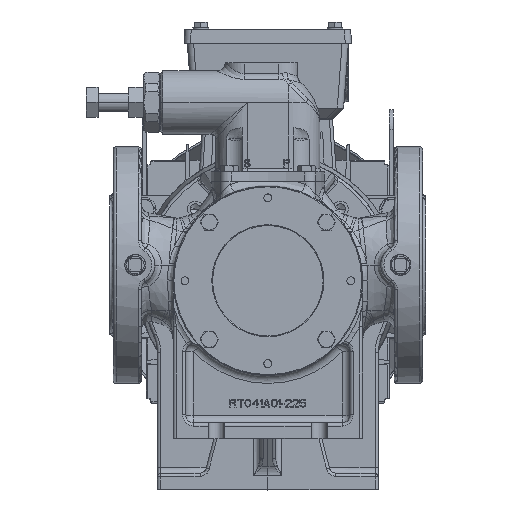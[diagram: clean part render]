
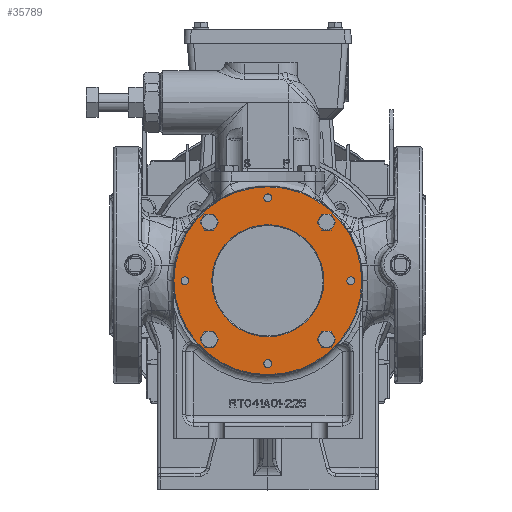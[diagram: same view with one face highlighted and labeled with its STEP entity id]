
A CAD part, top view. The second image highlights one B-rep face of the part: STEP entity #35789.
In plain terms, the highlighted planar face has unit normal (0, 0, 1) as drawn and (0, 0, -1) by its records, which use the part's own axes.
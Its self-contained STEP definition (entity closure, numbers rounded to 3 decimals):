
#34497=CARTESIAN_POINT('',(-52.5,0.,-30.5));
#34498=DIRECTION('',(0.,0.,1.));
#34499=DIRECTION('',(-1.,0.,0.));
#34500=AXIS2_PLACEMENT_3D('',#34497,#34498,#34499);
#34502=CARTESIAN_POINT('',(-52.5,0.,-30.5));
#34503=DIRECTION('',(0.,0.,1.));
#34504=DIRECTION('',(1.,0.,0.));
#34505=AXIS2_PLACEMENT_3D('',#34502,#34503,#34504);
#34507=CARTESIAN_POINT('',(0.,52.5,-30.5));
#34508=DIRECTION('',(0.,0.,1.));
#34509=DIRECTION('',(0.,1.,0.));
#34510=AXIS2_PLACEMENT_3D('',#34507,#34508,#34509);
#34512=CARTESIAN_POINT('',(0.,52.5,-30.5));
#34513=DIRECTION('',(0.,0.,1.));
#34514=DIRECTION('',(0.,-1.,0.));
#34515=AXIS2_PLACEMENT_3D('',#34512,#34513,#34514);
#34517=CARTESIAN_POINT('',(52.5,0.,-30.5));
#34518=DIRECTION('',(0.,0.,1.));
#34519=DIRECTION('',(1.,0.,0.));
#34520=AXIS2_PLACEMENT_3D('',#34517,#34518,#34519);
#34522=CARTESIAN_POINT('',(52.5,0.,-30.5));
#34523=DIRECTION('',(0.,0.,1.));
#34524=DIRECTION('',(-1.,0.,0.));
#34525=AXIS2_PLACEMENT_3D('',#34522,#34523,#34524);
#34527=CARTESIAN_POINT('',(0.,-52.5,-30.5));
#34528=DIRECTION('',(0.,0.,1.));
#34529=DIRECTION('',(0.,-1.,0.));
#34530=AXIS2_PLACEMENT_3D('',#34527,#34528,#34529);
#34532=CARTESIAN_POINT('',(0.,-52.5,-30.5));
#34533=DIRECTION('',(0.,0.,1.));
#34534=DIRECTION('',(0.,1.,0.));
#34535=AXIS2_PLACEMENT_3D('',#34532,#34533,#34534);
#34537=CARTESIAN_POINT('',(-37.123,37.123,-30.5));
#34538=DIRECTION('',(0.,0.,1.));
#34539=DIRECTION('',(1.,0.,0.));
#34540=AXIS2_PLACEMENT_3D('',#34537,#34538,#34539);
#34542=CARTESIAN_POINT('',(-37.123,37.123,-30.5));
#34543=DIRECTION('',(0.,0.,1.));
#34544=DIRECTION('',(-1.,0.,0.));
#34545=AXIS2_PLACEMENT_3D('',#34542,#34543,#34544);
#34547=CARTESIAN_POINT('',(37.123,37.123,-30.5));
#34548=DIRECTION('',(0.,0.,1.));
#34549=DIRECTION('',(0.,-1.,0.));
#34550=AXIS2_PLACEMENT_3D('',#34547,#34548,#34549);
#34552=CARTESIAN_POINT('',(37.123,37.123,-30.5));
#34553=DIRECTION('',(0.,0.,1.));
#34554=DIRECTION('',(0.,1.,0.));
#34555=AXIS2_PLACEMENT_3D('',#34552,#34553,#34554);
#34557=CARTESIAN_POINT('',(37.123,-37.123,-30.5));
#34558=DIRECTION('',(0.,0.,1.));
#34559=DIRECTION('',(-1.,0.,0.));
#34560=AXIS2_PLACEMENT_3D('',#34557,#34558,#34559);
#34562=CARTESIAN_POINT('',(37.123,-37.123,-30.5));
#34563=DIRECTION('',(0.,0.,1.));
#34564=DIRECTION('',(1.,0.,0.));
#34565=AXIS2_PLACEMENT_3D('',#34562,#34563,#34564);
#34567=CARTESIAN_POINT('',(-37.123,-37.123,-30.5));
#34568=DIRECTION('',(0.,0.,1.));
#34569=DIRECTION('',(0.,1.,0.));
#34570=AXIS2_PLACEMENT_3D('',#34567,#34568,#34569);
#34572=CARTESIAN_POINT('',(-37.123,-37.123,-30.5));
#34573=DIRECTION('',(0.,0.,1.));
#34574=DIRECTION('',(0.,-1.,0.));
#34575=AXIS2_PLACEMENT_3D('',#34572,#34573,#34574);
#34577=CARTESIAN_POINT('',(0.,0.,-30.5));
#34578=DIRECTION('',(0.,0.,-1.));
#34579=DIRECTION('',(1.,0.,0.));
#34580=AXIS2_PLACEMENT_3D('',#34577,#34578,#34579);
#34582=CARTESIAN_POINT('',(0.,0.,-30.5));
#34583=DIRECTION('',(0.,0.,-1.));
#34584=DIRECTION('',(-1.,0.,0.));
#34585=AXIS2_PLACEMENT_3D('',#34582,#34583,#34584);
#34587=CARTESIAN_POINT('',(0.,0.,-30.5));
#34588=DIRECTION('',(0.,0.,1.));
#34589=DIRECTION('',(-1.,0.,0.));
#34590=AXIS2_PLACEMENT_3D('',#34587,#34588,#34589);
#34592=CARTESIAN_POINT('',(0.,0.,-30.5));
#34593=DIRECTION('',(0.,0.,1.));
#34594=DIRECTION('',(1.,0.,0.));
#34595=AXIS2_PLACEMENT_3D('',#34592,#34593,#34594);
#34829=CARTESIAN_POINT('',(-55.,0.,-30.5));
#34830=CARTESIAN_POINT('',(-50.,0.,-30.5));
#34831=VERTEX_POINT('',#34829);
#34832=VERTEX_POINT('',#34830);
#34837=CARTESIAN_POINT('',(0.,55.,-30.5));
#34838=CARTESIAN_POINT('',(0.,50.,-30.5));
#34839=VERTEX_POINT('',#34837);
#34840=VERTEX_POINT('',#34838);
#34845=CARTESIAN_POINT('',(55.,0.,-30.5));
#34846=CARTESIAN_POINT('',(50.,0.,-30.5));
#34847=VERTEX_POINT('',#34845);
#34848=VERTEX_POINT('',#34846);
#34853=CARTESIAN_POINT('',(0.,-55.,-30.5));
#34854=CARTESIAN_POINT('',(0.,-50.,-30.5));
#34855=VERTEX_POINT('',#34853);
#34856=VERTEX_POINT('',#34854);
#34861=CARTESIAN_POINT('',(-33.623,37.123,-30.5));
#34862=CARTESIAN_POINT('',(-40.623,37.123,-30.5));
#34863=VERTEX_POINT('',#34861);
#34864=VERTEX_POINT('',#34862);
#34869=CARTESIAN_POINT('',(37.123,33.623,-30.5));
#34870=CARTESIAN_POINT('',(37.123,40.623,-30.5));
#34871=VERTEX_POINT('',#34869);
#34872=VERTEX_POINT('',#34870);
#34877=CARTESIAN_POINT('',(33.623,-37.123,-30.5));
#34878=CARTESIAN_POINT('',(40.623,-37.123,-30.5));
#34879=VERTEX_POINT('',#34877);
#34880=VERTEX_POINT('',#34878);
#34885=CARTESIAN_POINT('',(-37.123,-33.623,-30.5));
#34886=CARTESIAN_POINT('',(-37.123,-40.623,-30.5));
#34887=VERTEX_POINT('',#34885);
#34888=VERTEX_POINT('',#34886);
#34987=CARTESIAN_POINT('',(59.5,0.,-30.5));
#34988=CARTESIAN_POINT('',(-59.5,0.,-30.5));
#34989=VERTEX_POINT('',#34987);
#34990=VERTEX_POINT('',#34988);
#35028=CARTESIAN_POINT('',(-35.5,0.,-30.5));
#35029=CARTESIAN_POINT('',(35.5,0.,-30.5));
#35030=VERTEX_POINT('',#35028);
#35031=VERTEX_POINT('',#35029);
#35725=CARTESIAN_POINT('',(0.,0.,-30.5));
#35726=DIRECTION('',(0.,0.,-1.));
#35727=DIRECTION('',(-1.,0.,0.));
#35728=AXIS2_PLACEMENT_3D('',#35725,#35726,#35727);
#35729=PLANE('',#35728);
#35731=ORIENTED_EDGE('',*,*,#35730,.F.);
#35733=ORIENTED_EDGE('',*,*,#35732,.F.);
#35734=EDGE_LOOP('',(#35731,#35733));
#35735=FACE_OUTER_BOUND('',#35734,.F.);
#35737=ORIENTED_EDGE('',*,*,#35736,.F.);
#35739=ORIENTED_EDGE('',*,*,#35738,.F.);
#35740=EDGE_LOOP('',(#35737,#35739));
#35741=FACE_BOUND('',#35740,.F.);
#35743=ORIENTED_EDGE('',*,*,#35742,.F.);
#35745=ORIENTED_EDGE('',*,*,#35744,.F.);
#35746=EDGE_LOOP('',(#35743,#35745));
#35747=FACE_BOUND('',#35746,.F.);
#35749=ORIENTED_EDGE('',*,*,#35748,.F.);
#35751=ORIENTED_EDGE('',*,*,#35750,.F.);
#35752=EDGE_LOOP('',(#35749,#35751));
#35753=FACE_BOUND('',#35752,.F.);
#35755=ORIENTED_EDGE('',*,*,#35754,.F.);
#35757=ORIENTED_EDGE('',*,*,#35756,.F.);
#35758=EDGE_LOOP('',(#35755,#35757));
#35759=FACE_BOUND('',#35758,.F.);
#35761=ORIENTED_EDGE('',*,*,#35760,.F.);
#35763=ORIENTED_EDGE('',*,*,#35762,.F.);
#35764=EDGE_LOOP('',(#35761,#35763));
#35765=FACE_BOUND('',#35764,.F.);
#35767=ORIENTED_EDGE('',*,*,#35766,.F.);
#35769=ORIENTED_EDGE('',*,*,#35768,.F.);
#35770=EDGE_LOOP('',(#35767,#35769));
#35771=FACE_BOUND('',#35770,.F.);
#35773=ORIENTED_EDGE('',*,*,#35772,.F.);
#35775=ORIENTED_EDGE('',*,*,#35774,.F.);
#35776=EDGE_LOOP('',(#35773,#35775));
#35777=FACE_BOUND('',#35776,.F.);
#35778=ORIENTED_EDGE('',*,*,#35715,.F.);
#35780=ORIENTED_EDGE('',*,*,#35779,.F.);
#35781=EDGE_LOOP('',(#35778,#35780));
#35782=FACE_BOUND('',#35781,.F.);
#35784=ORIENTED_EDGE('',*,*,#35783,.F.);
#35786=ORIENTED_EDGE('',*,*,#35785,.F.);
#35787=EDGE_LOOP('',(#35784,#35786));
#35788=FACE_BOUND('',#35787,.F.);
#35789=ADVANCED_FACE('',(#35735,#35741,#35747,#35753,#35759,#35765,#35771,
#35777,#35782,#35788),#35729,.T.);
#34501=CIRCLE('',#34500,2.5);
#34506=CIRCLE('',#34505,2.5);
#34511=CIRCLE('',#34510,2.5);
#34516=CIRCLE('',#34515,2.5);
#34521=CIRCLE('',#34520,2.5);
#34526=CIRCLE('',#34525,2.5);
#34531=CIRCLE('',#34530,2.5);
#34536=CIRCLE('',#34535,2.5);
#34541=CIRCLE('',#34540,3.5);
#34546=CIRCLE('',#34545,3.5);
#34551=CIRCLE('',#34550,3.5);
#34556=CIRCLE('',#34555,3.5);
#34561=CIRCLE('',#34560,3.5);
#34566=CIRCLE('',#34565,3.5);
#34571=CIRCLE('',#34570,3.5);
#34576=CIRCLE('',#34575,3.5);
#34581=CIRCLE('',#34580,59.5);
#34586=CIRCLE('',#34585,59.5);
#34591=CIRCLE('',#34590,35.5);
#34596=CIRCLE('',#34595,35.5);
#35715=EDGE_CURVE('',#34831,#34832,#34501,.T.);
#35730=EDGE_CURVE('',#34989,#34990,#34581,.T.);
#35732=EDGE_CURVE('',#34990,#34989,#34586,.T.);
#35736=EDGE_CURVE('',#34839,#34840,#34511,.T.);
#35738=EDGE_CURVE('',#34840,#34839,#34516,.T.);
#35742=EDGE_CURVE('',#34847,#34848,#34521,.T.);
#35744=EDGE_CURVE('',#34848,#34847,#34526,.T.);
#35748=EDGE_CURVE('',#34855,#34856,#34531,.T.);
#35750=EDGE_CURVE('',#34856,#34855,#34536,.T.);
#35754=EDGE_CURVE('',#34863,#34864,#34541,.T.);
#35756=EDGE_CURVE('',#34864,#34863,#34546,.T.);
#35760=EDGE_CURVE('',#34871,#34872,#34551,.T.);
#35762=EDGE_CURVE('',#34872,#34871,#34556,.T.);
#35766=EDGE_CURVE('',#34879,#34880,#34561,.T.);
#35768=EDGE_CURVE('',#34880,#34879,#34566,.T.);
#35772=EDGE_CURVE('',#34887,#34888,#34571,.T.);
#35774=EDGE_CURVE('',#34888,#34887,#34576,.T.);
#35779=EDGE_CURVE('',#34832,#34831,#34506,.T.);
#35783=EDGE_CURVE('',#35030,#35031,#34591,.T.);
#35785=EDGE_CURVE('',#35031,#35030,#34596,.T.);
